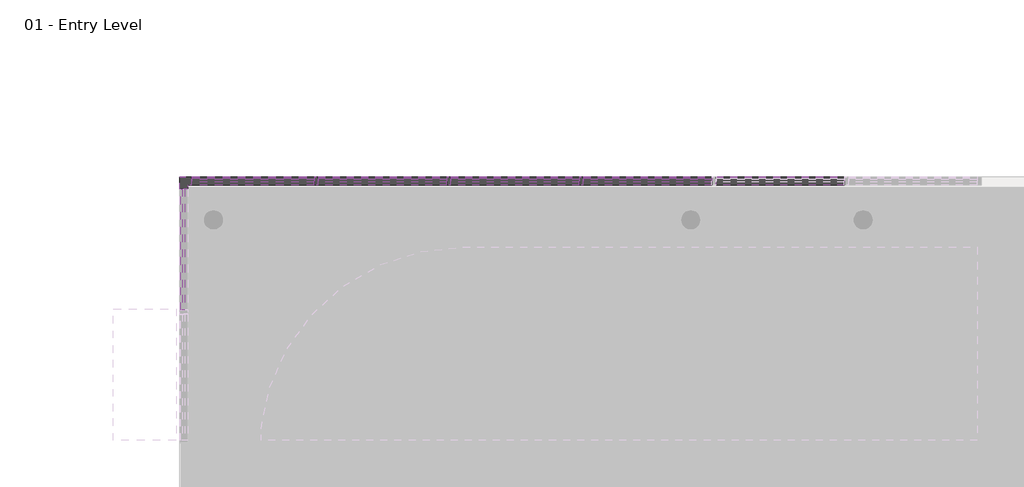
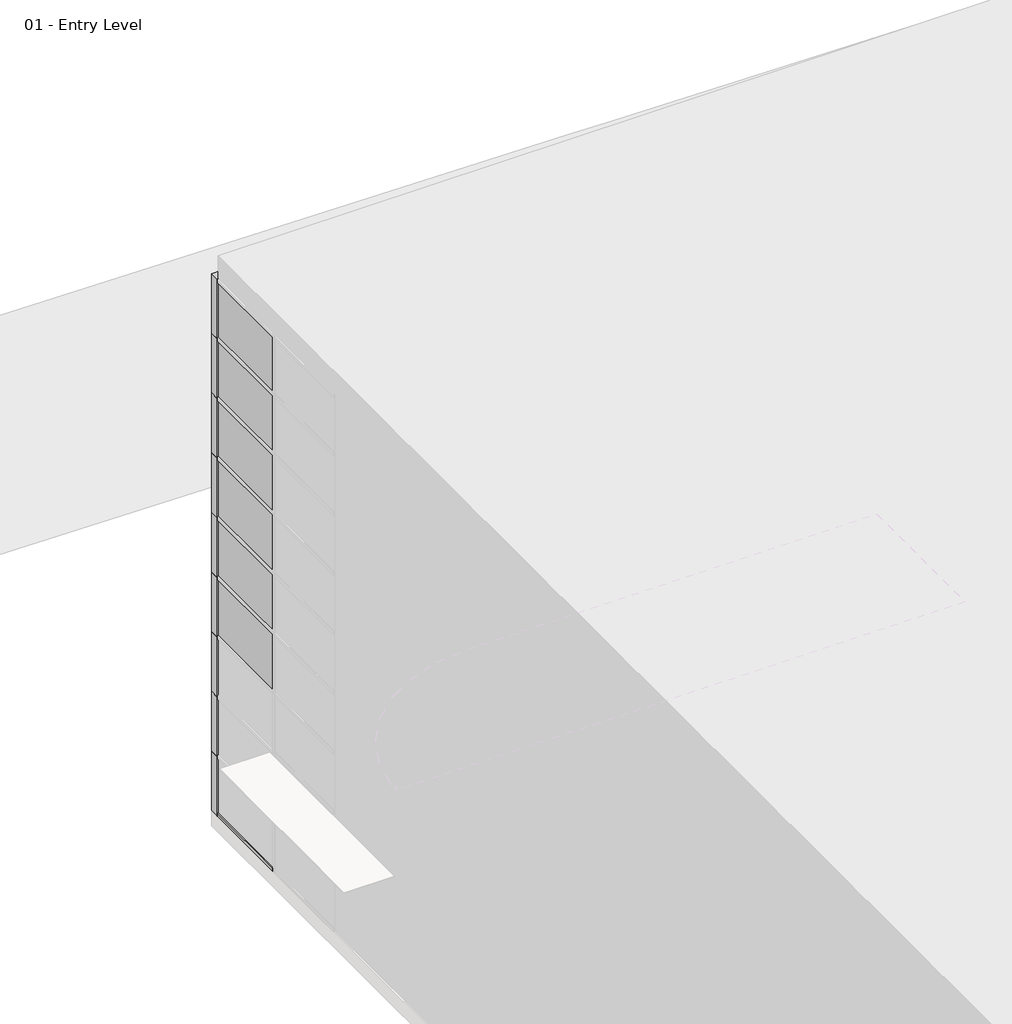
# One storey, part 28 of 34: 86 members, 42 plates.
"""IFC4 building model written with IfcOpenShell, lengths in millimetres."""

from ifc_helpers import new_model, si_unit, origin, place, context, project, spatial, transform, mapped, element, save
from components import member_6230916f, member_2b49869a, member_391b434c, member_9e90ae50, member_9822c4e5, member_b50b2218, member_bdc0ab2a, system_panel_glazed_1b9d6098, system_panel_glazed_70da479d, system_panel_glazed_01db37db, system_panel_glazed_0a464ab8, system_panel_glazed_acb8865d, system_panel_solid_b376696c, system_panel_solid_77e8b053, system_panel_solid_f3cfc6ec, system_panel_solid_9da24cec, system_panel_solid_7d77b356, system_panel_solid_9c486990

model = new_model("IFC4")

# Units and contexts
model_context = context("Model", 3, world=origin())
ifc_project = project(units=[si_unit("LENGTHUNIT", "METRE", prefix="MILLI")], contexts=[model_context])

# Site, building, storey
site = spatial("IfcSite", under=ifc_project)
building = spatial("IfcBuilding", under=site)
storey = spatial("IfcBuildingStorey", under=building, Name="01 - Entry Level", Elevation=0.0)

# Members
placement = place(None, origin())
member_shape = member_6230916f(model_context)
element("IfcMember", 1, ObjectType="L Corner Mullion : 5\" x 5\" Corner", at=placement, inside=storey, context=model_context, shape_type="MappedRepresentation", body=[
    mapped(member_shape, transform((178.7207476, 53825.7, 10972.8), x_axis=(0.0, 1.0, 0.0), y_axis=(-1.0, 0.0, 0.0), z_axis=(0.0, 0.0, 1.0))),
])
element("IfcMember", 2, ObjectType="L Corner Mullion : 5\" x 5\" Corner", at=placement, inside=storey, context=model_context, shape_type="MappedRepresentation", body=[
    mapped(member_shape, transform((178.7207476, 53825.7, 1219.2), x_axis=(0.0, 1.0, 0.0), y_axis=(-1.0, 0.0, 0.0), z_axis=(0.0, 0.0, 1.0))),
])
element("IfcMember", 3, ObjectType="L Corner Mullion : 5\" x 5\" Corner", at=placement, inside=storey, context=model_context, shape_type="MappedRepresentation", body=[
    mapped(member_shape, transform((178.7207476, 53825.7, 8534.4), x_axis=(0.0, 1.0, 0.0), y_axis=(-1.0, 0.0, 0.0), z_axis=(0.0, 0.0, 1.0))),
])
element("IfcMember", 4, ObjectType="L Corner Mullion : 5\" x 5\" Corner", at=placement, inside=storey, context=model_context, shape_type="MappedRepresentation", body=[
    mapped(member_shape, transform((178.7207476, 53825.7, 7315.2), x_axis=(0.0, 1.0, 0.0), y_axis=(-1.0, 0.0, 0.0), z_axis=(0.0, 0.0, 1.0))),
])
element("IfcMember", 5, ObjectType="L Corner Mullion : 5\" x 5\" Corner", at=placement, inside=storey, context=model_context, shape_type="MappedRepresentation", body=[
    mapped(member_shape, transform((178.7207476, 53825.7, 9753.6), x_axis=(0.0, 1.0, 0.0), y_axis=(-1.0, 0.0, 0.0), z_axis=(0.0, 0.0, 1.0))),
])
element("IfcMember", 6, ObjectType="L Corner Mullion : 5\" x 5\" Corner", at=placement, inside=storey, context=model_context, shape_type="MappedRepresentation", body=[
    mapped(member_shape, transform((178.7207476, 53825.7, 6096.0), x_axis=(0.0, 1.0, 0.0), y_axis=(-1.0, 0.0, 0.0), z_axis=(0.0, 0.0, 1.0))),
])
element("IfcMember", 7, ObjectType="L Corner Mullion : 5\" x 5\" Corner", at=placement, inside=storey, context=model_context, shape_type="MappedRepresentation", body=[
    mapped(member_shape, transform((178.7207476, 53825.7, 2438.4), x_axis=(0.0, 1.0, 0.0), y_axis=(-1.0, 0.0, 0.0), z_axis=(0.0, 0.0, 1.0))),
])
element("IfcMember", 8, ObjectType="L Corner Mullion : 5\" x 5\" Corner", at=placement, inside=storey, context=model_context, shape_type="MappedRepresentation", body=[
    mapped(member_shape, transform((178.7207476, 53825.7, 3657.6), x_axis=(0.0, 1.0, 0.0), y_axis=(-1.0, 0.0, 0.0), z_axis=(0.0, 0.0, 1.0))),
])
element("IfcMember", 9, ObjectType="L Corner Mullion : 5\" x 5\" Corner", at=placement, inside=storey, context=model_context, shape_type="MappedRepresentation", body=[
    mapped(member_shape, transform((178.7207476, 53825.7, 4876.8), x_axis=(0.0, 1.0, 0.0), y_axis=(-1.0, 0.0, 0.0), z_axis=(0.0, 0.0, 1.0))),
])
member_2_shape = member_2b49869a(model_context)
element("IfcMember", 10, ObjectType="Rectangular Mullion : 2.5\" x 5\" rectangular", at=placement, inside=storey, context=model_context, shape_type="MappedRepresentation", body=[
    mapped(member_2_shape, transform((6274.7207476, 53825.7, 9753.6), x_axis=(-1.0, 0.0, 0.0), y_axis=(0.0, 1.0, 0.0), z_axis=(0.0, 0.0, -1.0))),
])
element("IfcMember", 11, ObjectType="Rectangular Mullion : 2.5\" x 5\" rectangular", at=placement, inside=storey, context=model_context, shape_type="MappedRepresentation", body=[
    mapped(member_2_shape, transform((4242.7207476, 53825.7, 9753.6), x_axis=(-1.0, 0.0, 0.0), y_axis=(0.0, 1.0, 0.0), z_axis=(0.0, 0.0, -1.0))),
])
element("IfcMember", 12, ObjectType="Rectangular Mullion : 2.5\" x 5\" rectangular", at=placement, inside=storey, context=model_context, shape_type="MappedRepresentation", body=[
    mapped(member_2_shape, transform((2210.7207476, 53825.7, 9753.6), x_axis=(-1.0, 0.0, 0.0), y_axis=(0.0, 1.0, 0.0), z_axis=(0.0, 0.0, -1.0))),
])
member_3_shape = member_391b434c(model_context)
element("IfcMember", 13, ObjectType="Rectangular Mullion : 2.5\" x 5\" rectangular", at=placement, inside=storey, context=model_context, shape_type="MappedRepresentation", body=[
    mapped(member_3_shape, transform((8338.4707476, 53825.7, 10972.8), x_axis=(0.0, 0.0, 1.0), y_axis=(0.0, 1.0, 0.0), z_axis=(-1.0, 0.0, 0.0))),
])
element("IfcMember", 14, ObjectType="Rectangular Mullion : 2.5\" x 5\" rectangular", at=placement, inside=storey, context=model_context, shape_type="MappedRepresentation", body=[
    mapped(member_3_shape, transform((6306.4707476, 53825.7, 10972.8), x_axis=(0.0, 0.0, 1.0), y_axis=(0.0, 1.0, 0.0), z_axis=(-1.0, 0.0, 0.0))),
])
element("IfcMember", 15, ObjectType="Rectangular Mullion : 2.5\" x 5\" rectangular", at=placement, inside=storey, context=model_context, shape_type="MappedRepresentation", body=[
    mapped(member_3_shape, transform((4274.4707476, 53825.7, 10972.8), x_axis=(0.0, 0.0, 1.0), y_axis=(0.0, 1.0, 0.0), z_axis=(-1.0, 0.0, 0.0))),
])
element("IfcMember", 16, ObjectType="Rectangular Mullion : 2.5\" x 5\" rectangular", at=placement, inside=storey, context=model_context, shape_type="MappedRepresentation", body=[
    mapped(member_3_shape, transform((2242.4707476, 53825.7, 10972.8), x_axis=(0.0, 0.0, 1.0), y_axis=(0.0, 1.0, 0.0), z_axis=(-1.0, 0.0, 0.0))),
])
element("IfcMember", 17, ObjectType="Rectangular Mullion : 2.5\" x 5\" rectangular", at=placement, inside=storey, context=model_context, shape_type="MappedRepresentation", body=[
    mapped(member_3_shape, transform((8274.9707476, 53825.7, 0.0), x_axis=(0.0, 0.0, -1.0), y_axis=(0.0, 1.0, 0.0), z_axis=(1.0, 0.0, 0.0))),
])
element("IfcMember", 18, ObjectType="Rectangular Mullion : 2.5\" x 5\" rectangular", at=placement, inside=storey, context=model_context, shape_type="MappedRepresentation", body=[
    mapped(member_3_shape, transform((6242.9707476, 53825.7, 0.0), x_axis=(0.0, 0.0, -1.0), y_axis=(0.0, 1.0, 0.0), z_axis=(1.0, 0.0, 0.0))),
])
element("IfcMember", 19, ObjectType="Rectangular Mullion : 2.5\" x 5\" rectangular", at=placement, inside=storey, context=model_context, shape_type="MappedRepresentation", body=[
    mapped(member_3_shape, transform((4210.9707476, 53825.7, 0.0), x_axis=(0.0, 0.0, -1.0), y_axis=(0.0, 1.0, 0.0), z_axis=(1.0, 0.0, 0.0))),
])
member_4_shape = member_9e90ae50(model_context)
element("IfcMember", 20, ObjectType="Rectangular Mullion : 2.5\" x 5\" rectangular", at=placement, inside=storey, context=model_context, shape_type="MappedRepresentation", body=[
    mapped(member_4_shape, transform((8338.4707476, 53825.7, 1219.2), x_axis=(0.0, 0.0, 1.0), y_axis=(0.0, 1.0, 0.0), z_axis=(-1.0, 0.0, 0.0))),
])
element("IfcMember", 21, ObjectType="Rectangular Mullion : 2.5\" x 5\" rectangular", at=placement, inside=storey, context=model_context, shape_type="MappedRepresentation", body=[
    mapped(member_4_shape, transform((6306.4707476, 53825.7, 1219.2), x_axis=(0.0, 0.0, 1.0), y_axis=(0.0, 1.0, 0.0), z_axis=(-1.0, 0.0, 0.0))),
])
element("IfcMember", 22, ObjectType="Rectangular Mullion : 2.5\" x 5\" rectangular", at=placement, inside=storey, context=model_context, shape_type="MappedRepresentation", body=[
    mapped(member_4_shape, transform((4274.4707476, 53825.7, 1219.2), x_axis=(0.0, 0.0, 1.0), y_axis=(0.0, 1.0, 0.0), z_axis=(-1.0, 0.0, 0.0))),
])
element("IfcMember", 23, ObjectType="Rectangular Mullion : 2.5\" x 5\" rectangular", at=placement, inside=storey, context=model_context, shape_type="MappedRepresentation", body=[
    mapped(member_4_shape, transform((2242.4707476, 53825.7, 1219.2), x_axis=(0.0, 0.0, 1.0), y_axis=(0.0, 1.0, 0.0), z_axis=(-1.0, 0.0, 0.0))),
])
element("IfcMember", 24, ObjectType="Rectangular Mullion : 2.5\" x 5\" rectangular", at=placement, inside=storey, context=model_context, shape_type="MappedRepresentation", body=[
    mapped(member_4_shape, transform((8338.4707476, 53825.7, 2438.4), x_axis=(0.0, 0.0, 1.0), y_axis=(0.0, 1.0, 0.0), z_axis=(-1.0, 0.0, 0.0))),
])
element("IfcMember", 25, ObjectType="Rectangular Mullion : 2.5\" x 5\" rectangular", at=placement, inside=storey, context=model_context, shape_type="MappedRepresentation", body=[
    mapped(member_4_shape, transform((6306.4707476, 53825.7, 2438.4), x_axis=(0.0, 0.0, 1.0), y_axis=(0.0, 1.0, 0.0), z_axis=(-1.0, 0.0, 0.0))),
])
element("IfcMember", 26, ObjectType="Rectangular Mullion : 2.5\" x 5\" rectangular", at=placement, inside=storey, context=model_context, shape_type="MappedRepresentation", body=[
    mapped(member_4_shape, transform((4274.4707476, 53825.7, 2438.4), x_axis=(0.0, 0.0, 1.0), y_axis=(0.0, 1.0, 0.0), z_axis=(-1.0, 0.0, 0.0))),
])
element("IfcMember", 27, ObjectType="Rectangular Mullion : 2.5\" x 5\" rectangular", at=placement, inside=storey, context=model_context, shape_type="MappedRepresentation", body=[
    mapped(member_4_shape, transform((2242.4707476, 53825.7, 2438.4), x_axis=(0.0, 0.0, 1.0), y_axis=(0.0, 1.0, 0.0), z_axis=(-1.0, 0.0, 0.0))),
])
element("IfcMember", 28, ObjectType="Rectangular Mullion : 2.5\" x 5\" rectangular", at=placement, inside=storey, context=model_context, shape_type="MappedRepresentation", body=[
    mapped(member_4_shape, transform((8338.4707476, 53825.7, 3657.6), x_axis=(0.0, 0.0, 1.0), y_axis=(0.0, 1.0, 0.0), z_axis=(-1.0, 0.0, 0.0))),
])
element("IfcMember", 29, ObjectType="Rectangular Mullion : 2.5\" x 5\" rectangular", at=placement, inside=storey, context=model_context, shape_type="MappedRepresentation", body=[
    mapped(member_4_shape, transform((6306.4707476, 53825.7, 3657.6), x_axis=(0.0, 0.0, 1.0), y_axis=(0.0, 1.0, 0.0), z_axis=(-1.0, 0.0, 0.0))),
])
element("IfcMember", 30, ObjectType="Rectangular Mullion : 2.5\" x 5\" rectangular", at=placement, inside=storey, context=model_context, shape_type="MappedRepresentation", body=[
    mapped(member_4_shape, transform((4274.4707476, 53825.7, 3657.6), x_axis=(0.0, 0.0, 1.0), y_axis=(0.0, 1.0, 0.0), z_axis=(-1.0, 0.0, 0.0))),
])
element("IfcMember", 31, ObjectType="Rectangular Mullion : 2.5\" x 5\" rectangular", at=placement, inside=storey, context=model_context, shape_type="MappedRepresentation", body=[
    mapped(member_4_shape, transform((2242.4707476, 53825.7, 3657.6), x_axis=(0.0, 0.0, 1.0), y_axis=(0.0, 1.0, 0.0), z_axis=(-1.0, 0.0, 0.0))),
])
element("IfcMember", 32, ObjectType="Rectangular Mullion : 2.5\" x 5\" rectangular", at=placement, inside=storey, context=model_context, shape_type="MappedRepresentation", body=[
    mapped(member_4_shape, transform((8338.4707476, 53825.7, 4876.8), x_axis=(0.0, 0.0, 1.0), y_axis=(0.0, 1.0, 0.0), z_axis=(-1.0, 0.0, 0.0))),
])
element("IfcMember", 33, ObjectType="Rectangular Mullion : 2.5\" x 5\" rectangular", at=placement, inside=storey, context=model_context, shape_type="MappedRepresentation", body=[
    mapped(member_4_shape, transform((6306.4707476, 53825.7, 4876.8), x_axis=(0.0, 0.0, 1.0), y_axis=(0.0, 1.0, 0.0), z_axis=(-1.0, 0.0, 0.0))),
])
element("IfcMember", 34, ObjectType="Rectangular Mullion : 2.5\" x 5\" rectangular", at=placement, inside=storey, context=model_context, shape_type="MappedRepresentation", body=[
    mapped(member_4_shape, transform((4274.4707476, 53825.7, 4876.8), x_axis=(0.0, 0.0, 1.0), y_axis=(0.0, 1.0, 0.0), z_axis=(-1.0, 0.0, 0.0))),
])
element("IfcMember", 35, ObjectType="Rectangular Mullion : 2.5\" x 5\" rectangular", at=placement, inside=storey, context=model_context, shape_type="MappedRepresentation", body=[
    mapped(member_4_shape, transform((2242.4707476, 53825.7, 4876.8), x_axis=(0.0, 0.0, 1.0), y_axis=(0.0, 1.0, 0.0), z_axis=(-1.0, 0.0, 0.0))),
])
element("IfcMember", 36, ObjectType="Rectangular Mullion : 2.5\" x 5\" rectangular", at=placement, inside=storey, context=model_context, shape_type="MappedRepresentation", body=[
    mapped(member_4_shape, transform((8338.4707476, 53825.7, 6096.0), x_axis=(0.0, 0.0, 1.0), y_axis=(0.0, 1.0, 0.0), z_axis=(-1.0, 0.0, 0.0))),
])
element("IfcMember", 37, ObjectType="Rectangular Mullion : 2.5\" x 5\" rectangular", at=placement, inside=storey, context=model_context, shape_type="MappedRepresentation", body=[
    mapped(member_4_shape, transform((6306.4707476, 53825.7, 6096.0), x_axis=(0.0, 0.0, 1.0), y_axis=(0.0, 1.0, 0.0), z_axis=(-1.0, 0.0, 0.0))),
])
element("IfcMember", 38, ObjectType="Rectangular Mullion : 2.5\" x 5\" rectangular", at=placement, inside=storey, context=model_context, shape_type="MappedRepresentation", body=[
    mapped(member_4_shape, transform((4274.4707476, 53825.7, 6096.0), x_axis=(0.0, 0.0, 1.0), y_axis=(0.0, 1.0, 0.0), z_axis=(-1.0, 0.0, 0.0))),
])
element("IfcMember", 39, ObjectType="Rectangular Mullion : 2.5\" x 5\" rectangular", at=placement, inside=storey, context=model_context, shape_type="MappedRepresentation", body=[
    mapped(member_4_shape, transform((2242.4707476, 53825.7, 6096.0), x_axis=(0.0, 0.0, 1.0), y_axis=(0.0, 1.0, 0.0), z_axis=(-1.0, 0.0, 0.0))),
])
element("IfcMember", 40, ObjectType="Rectangular Mullion : 2.5\" x 5\" rectangular", at=placement, inside=storey, context=model_context, shape_type="MappedRepresentation", body=[
    mapped(member_4_shape, transform((8338.4707476, 53825.7, 7315.2), x_axis=(0.0, 0.0, 1.0), y_axis=(0.0, 1.0, 0.0), z_axis=(-1.0, 0.0, 0.0))),
])
element("IfcMember", 41, ObjectType="Rectangular Mullion : 2.5\" x 5\" rectangular", at=placement, inside=storey, context=model_context, shape_type="MappedRepresentation", body=[
    mapped(member_4_shape, transform((6306.4707476, 53825.7, 7315.2), x_axis=(0.0, 0.0, 1.0), y_axis=(0.0, 1.0, 0.0), z_axis=(-1.0, 0.0, 0.0))),
])
element("IfcMember", 42, ObjectType="Rectangular Mullion : 2.5\" x 5\" rectangular", at=placement, inside=storey, context=model_context, shape_type="MappedRepresentation", body=[
    mapped(member_4_shape, transform((4274.4707476, 53825.7, 7315.2), x_axis=(0.0, 0.0, 1.0), y_axis=(0.0, 1.0, 0.0), z_axis=(-1.0, 0.0, 0.0))),
])
element("IfcMember", 43, ObjectType="Rectangular Mullion : 2.5\" x 5\" rectangular", at=placement, inside=storey, context=model_context, shape_type="MappedRepresentation", body=[
    mapped(member_4_shape, transform((2242.4707476, 53825.7, 7315.2), x_axis=(0.0, 0.0, 1.0), y_axis=(0.0, 1.0, 0.0), z_axis=(-1.0, 0.0, 0.0))),
])
element("IfcMember", 44, ObjectType="Rectangular Mullion : 2.5\" x 5\" rectangular", at=placement, inside=storey, context=model_context, shape_type="MappedRepresentation", body=[
    mapped(member_4_shape, transform((8338.4707476, 53825.7, 8534.4), x_axis=(0.0, 0.0, 1.0), y_axis=(0.0, 1.0, 0.0), z_axis=(-1.0, 0.0, 0.0))),
])
element("IfcMember", 45, ObjectType="Rectangular Mullion : 2.5\" x 5\" rectangular", at=placement, inside=storey, context=model_context, shape_type="MappedRepresentation", body=[
    mapped(member_4_shape, transform((6306.4707476, 53825.7, 8534.4), x_axis=(0.0, 0.0, 1.0), y_axis=(0.0, 1.0, 0.0), z_axis=(-1.0, 0.0, 0.0))),
])
element("IfcMember", 46, ObjectType="Rectangular Mullion : 2.5\" x 5\" rectangular", at=placement, inside=storey, context=model_context, shape_type="MappedRepresentation", body=[
    mapped(member_4_shape, transform((4274.4707476, 53825.7, 8534.4), x_axis=(0.0, 0.0, 1.0), y_axis=(0.0, 1.0, 0.0), z_axis=(-1.0, 0.0, 0.0))),
])
element("IfcMember", 47, ObjectType="Rectangular Mullion : 2.5\" x 5\" rectangular", at=placement, inside=storey, context=model_context, shape_type="MappedRepresentation", body=[
    mapped(member_4_shape, transform((2242.4707476, 53825.7, 8534.4), x_axis=(0.0, 0.0, 1.0), y_axis=(0.0, 1.0, 0.0), z_axis=(-1.0, 0.0, 0.0))),
])
element("IfcMember", 48, ObjectType="Rectangular Mullion : 2.5\" x 5\" rectangular", at=placement, inside=storey, context=model_context, shape_type="MappedRepresentation", body=[
    mapped(member_4_shape, transform((8338.4707476, 53825.7, 9753.6), x_axis=(0.0, 0.0, 1.0), y_axis=(0.0, 1.0, 0.0), z_axis=(-1.0, 0.0, 0.0))),
])
element("IfcMember", 49, ObjectType="Rectangular Mullion : 2.5\" x 5\" rectangular", at=placement, inside=storey, context=model_context, shape_type="MappedRepresentation", body=[
    mapped(member_4_shape, transform((6306.4707476, 53825.7, 9753.6), x_axis=(0.0, 0.0, 1.0), y_axis=(0.0, 1.0, 0.0), z_axis=(-1.0, 0.0, 0.0))),
])
element("IfcMember", 50, ObjectType="Rectangular Mullion : 2.5\" x 5\" rectangular", at=placement, inside=storey, context=model_context, shape_type="MappedRepresentation", body=[
    mapped(member_4_shape, transform((4274.4707476, 53825.7, 9753.6), x_axis=(0.0, 0.0, 1.0), y_axis=(0.0, 1.0, 0.0), z_axis=(-1.0, 0.0, 0.0))),
])
element("IfcMember", 51, ObjectType="Rectangular Mullion : 2.5\" x 5\" rectangular", at=placement, inside=storey, context=model_context, shape_type="MappedRepresentation", body=[
    mapped(member_4_shape, transform((2242.4707476, 53825.7, 9753.6), x_axis=(0.0, 0.0, 1.0), y_axis=(0.0, 1.0, 0.0), z_axis=(-1.0, 0.0, 0.0))),
])
element("IfcMember", 52, ObjectType="Rectangular Mullion : 2.5\" x 5\" rectangular", at=placement, inside=storey, context=model_context, shape_type="MappedRepresentation", body=[
    mapped(member_2_shape, transform((6274.7207476, 53825.7, 0.0), x_axis=(-1.0, 0.0, 0.0), y_axis=(0.0, 1.0, 0.0), z_axis=(0.0, 0.0, -1.0))),
])
element("IfcMember", 53, ObjectType="Rectangular Mullion : 2.5\" x 5\" rectangular", at=placement, inside=storey, context=model_context, shape_type="MappedRepresentation", body=[
    mapped(member_2_shape, transform((4242.7207476, 53825.7, 0.0), x_axis=(-1.0, 0.0, 0.0), y_axis=(0.0, 1.0, 0.0), z_axis=(0.0, 0.0, -1.0))),
])
element("IfcMember", 54, ObjectType="Rectangular Mullion : 2.5\" x 5\" rectangular", at=placement, inside=storey, context=model_context, shape_type="MappedRepresentation", body=[
    mapped(member_2_shape, transform((2210.7207476, 53825.7, 0.0), x_axis=(-1.0, 0.0, 0.0), y_axis=(0.0, 1.0, 0.0), z_axis=(0.0, 0.0, -1.0))),
])
element("IfcMember", 55, ObjectType="Rectangular Mullion : 2.5\" x 5\" rectangular", at=placement, inside=storey, context=model_context, shape_type="MappedRepresentation", body=[
    mapped(member_2_shape, transform((6274.7207476, 53825.7, 1219.2), x_axis=(-1.0, 0.0, 0.0), y_axis=(0.0, 1.0, 0.0), z_axis=(0.0, 0.0, -1.0))),
])
element("IfcMember", 56, ObjectType="Rectangular Mullion : 2.5\" x 5\" rectangular", at=placement, inside=storey, context=model_context, shape_type="MappedRepresentation", body=[
    mapped(member_2_shape, transform((4242.7207476, 53825.7, 1219.2), x_axis=(-1.0, 0.0, 0.0), y_axis=(0.0, 1.0, 0.0), z_axis=(0.0, 0.0, -1.0))),
])
element("IfcMember", 57, ObjectType="Rectangular Mullion : 2.5\" x 5\" rectangular", at=placement, inside=storey, context=model_context, shape_type="MappedRepresentation", body=[
    mapped(member_2_shape, transform((6274.7207476, 53825.7, 2438.4), x_axis=(-1.0, 0.0, 0.0), y_axis=(0.0, 1.0, 0.0), z_axis=(0.0, 0.0, -1.0))),
])
element("IfcMember", 58, ObjectType="Rectangular Mullion : 2.5\" x 5\" rectangular", at=placement, inside=storey, context=model_context, shape_type="MappedRepresentation", body=[
    mapped(member_2_shape, transform((4242.7207476, 53825.7, 2438.4), x_axis=(-1.0, 0.0, 0.0), y_axis=(0.0, 1.0, 0.0), z_axis=(0.0, 0.0, -1.0))),
])
element("IfcMember", 59, ObjectType="Rectangular Mullion : 2.5\" x 5\" rectangular", at=placement, inside=storey, context=model_context, shape_type="MappedRepresentation", body=[
    mapped(member_2_shape, transform((6274.7207476, 53825.7, 3657.6), x_axis=(-1.0, 0.0, 0.0), y_axis=(0.0, 1.0, 0.0), z_axis=(0.0, 0.0, -1.0))),
])
element("IfcMember", 60, ObjectType="Rectangular Mullion : 2.5\" x 5\" rectangular", at=placement, inside=storey, context=model_context, shape_type="MappedRepresentation", body=[
    mapped(member_2_shape, transform((4242.7207476, 53825.7, 3657.6), x_axis=(-1.0, 0.0, 0.0), y_axis=(0.0, 1.0, 0.0), z_axis=(0.0, 0.0, -1.0))),
])
element("IfcMember", 61, ObjectType="Rectangular Mullion : 2.5\" x 5\" rectangular", at=placement, inside=storey, context=model_context, shape_type="MappedRepresentation", body=[
    mapped(member_2_shape, transform((6274.7207476, 53825.7, 4876.8), x_axis=(-1.0, 0.0, 0.0), y_axis=(0.0, 1.0, 0.0), z_axis=(0.0, 0.0, -1.0))),
])
element("IfcMember", 62, ObjectType="Rectangular Mullion : 2.5\" x 5\" rectangular", at=placement, inside=storey, context=model_context, shape_type="MappedRepresentation", body=[
    mapped(member_2_shape, transform((4242.7207476, 53825.7, 4876.8), x_axis=(-1.0, 0.0, 0.0), y_axis=(0.0, 1.0, 0.0), z_axis=(0.0, 0.0, -1.0))),
])
element("IfcMember", 63, ObjectType="Rectangular Mullion : 2.5\" x 5\" rectangular", at=placement, inside=storey, context=model_context, shape_type="MappedRepresentation", body=[
    mapped(member_2_shape, transform((6274.7207476, 53825.7, 6096.0), x_axis=(-1.0, 0.0, 0.0), y_axis=(0.0, 1.0, 0.0), z_axis=(0.0, 0.0, -1.0))),
])
element("IfcMember", 64, ObjectType="Rectangular Mullion : 2.5\" x 5\" rectangular", at=placement, inside=storey, context=model_context, shape_type="MappedRepresentation", body=[
    mapped(member_2_shape, transform((4242.7207476, 53825.7, 6096.0), x_axis=(-1.0, 0.0, 0.0), y_axis=(0.0, 1.0, 0.0), z_axis=(0.0, 0.0, -1.0))),
])
element("IfcMember", 65, ObjectType="Rectangular Mullion : 2.5\" x 5\" rectangular", at=placement, inside=storey, context=model_context, shape_type="MappedRepresentation", body=[
    mapped(member_2_shape, transform((6274.7207476, 53825.7, 7315.2), x_axis=(-1.0, 0.0, 0.0), y_axis=(0.0, 1.0, 0.0), z_axis=(0.0, 0.0, -1.0))),
])
element("IfcMember", 66, ObjectType="Rectangular Mullion : 2.5\" x 5\" rectangular", at=placement, inside=storey, context=model_context, shape_type="MappedRepresentation", body=[
    mapped(member_2_shape, transform((4242.7207476, 53825.7, 7315.2), x_axis=(-1.0, 0.0, 0.0), y_axis=(0.0, 1.0, 0.0), z_axis=(0.0, 0.0, -1.0))),
])
element("IfcMember", 67, ObjectType="Rectangular Mullion : 2.5\" x 5\" rectangular", at=placement, inside=storey, context=model_context, shape_type="MappedRepresentation", body=[
    mapped(member_2_shape, transform((6274.7207476, 53825.7, 8534.4), x_axis=(-1.0, 0.0, 0.0), y_axis=(0.0, 1.0, 0.0), z_axis=(0.0, 0.0, -1.0))),
])
element("IfcMember", 68, ObjectType="Rectangular Mullion : 2.5\" x 5\" rectangular", at=placement, inside=storey, context=model_context, shape_type="MappedRepresentation", body=[
    mapped(member_2_shape, transform((4242.7207476, 53825.7, 8534.4), x_axis=(-1.0, 0.0, 0.0), y_axis=(0.0, 1.0, 0.0), z_axis=(0.0, 0.0, -1.0))),
])
element("IfcMember", 69, ObjectType="Rectangular Mullion : 2.5\" x 5\" rectangular", at=placement, inside=storey, context=model_context, shape_type="MappedRepresentation", body=[
    mapped(member_2_shape, transform((2210.7207476, 53825.7, 1219.2), x_axis=(-1.0, 0.0, 0.0), y_axis=(0.0, 1.0, 0.0), z_axis=(0.0, 0.0, -1.0))),
])
element("IfcMember", 70, ObjectType="Rectangular Mullion : 2.5\" x 5\" rectangular", at=placement, inside=storey, context=model_context, shape_type="MappedRepresentation", body=[
    mapped(member_2_shape, transform((2210.7207476, 53825.7, 2438.4), x_axis=(-1.0, 0.0, 0.0), y_axis=(0.0, 1.0, 0.0), z_axis=(0.0, 0.0, -1.0))),
])
element("IfcMember", 71, ObjectType="Rectangular Mullion : 2.5\" x 5\" rectangular", at=placement, inside=storey, context=model_context, shape_type="MappedRepresentation", body=[
    mapped(member_2_shape, transform((2210.7207476, 53825.7, 3657.6), x_axis=(-1.0, 0.0, 0.0), y_axis=(0.0, 1.0, 0.0), z_axis=(0.0, 0.0, -1.0))),
])
element("IfcMember", 72, ObjectType="Rectangular Mullion : 2.5\" x 5\" rectangular", at=placement, inside=storey, context=model_context, shape_type="MappedRepresentation", body=[
    mapped(member_2_shape, transform((2210.7207476, 53825.7, 4876.8), x_axis=(-1.0, 0.0, 0.0), y_axis=(0.0, 1.0, 0.0), z_axis=(0.0, 0.0, -1.0))),
])
element("IfcMember", 73, ObjectType="Rectangular Mullion : 2.5\" x 5\" rectangular", at=placement, inside=storey, context=model_context, shape_type="MappedRepresentation", body=[
    mapped(member_2_shape, transform((2210.7207476, 53825.7, 6096.0), x_axis=(-1.0, 0.0, 0.0), y_axis=(0.0, 1.0, 0.0), z_axis=(0.0, 0.0, -1.0))),
])
element("IfcMember", 74, ObjectType="Rectangular Mullion : 2.5\" x 5\" rectangular", at=placement, inside=storey, context=model_context, shape_type="MappedRepresentation", body=[
    mapped(member_2_shape, transform((2210.7207476, 53825.7, 7315.2), x_axis=(-1.0, 0.0, 0.0), y_axis=(0.0, 1.0, 0.0), z_axis=(0.0, 0.0, -1.0))),
])
element("IfcMember", 75, ObjectType="Rectangular Mullion : 2.5\" x 5\" rectangular", at=placement, inside=storey, context=model_context, shape_type="MappedRepresentation", body=[
    mapped(member_2_shape, transform((2210.7207476, 53825.7, 8534.4), x_axis=(-1.0, 0.0, 0.0), y_axis=(0.0, 1.0, 0.0), z_axis=(0.0, 0.0, -1.0))),
])
member_5_shape = member_9822c4e5(model_context)
element("IfcMember", 76, ObjectType="Rectangular Mullion : 2.5\" x 5\" rectangular", at=placement, inside=storey, context=model_context, shape_type="MappedRepresentation", body=[
    mapped(member_5_shape, transform((305.7207476, 53825.7, 10972.8), x_axis=(0.0, 0.0, 1.0), y_axis=(0.0, 1.0, 0.0), z_axis=(-1.0, 0.0, 0.0))),
])
element("IfcMember", 77, ObjectType="Rectangular Mullion : 2.5\" x 5\" rectangular", at=placement, inside=storey, context=model_context, shape_type="MappedRepresentation", body=[
    mapped(member_5_shape, transform((2178.9707476, 53825.7, 0.0), x_axis=(0.0, 0.0, -1.0), y_axis=(0.0, 1.0, 0.0), z_axis=(1.0, 0.0, 0.0))),
])
member_6_shape = member_b50b2218(model_context)
element("IfcMember", 78, ObjectType="Rectangular Mullion : 2.5\" x 5\" rectangular", at=placement, inside=storey, context=model_context, shape_type="MappedRepresentation", body=[
    mapped(member_6_shape, transform((305.7207476, 53825.7, 1219.2), x_axis=(0.0, 0.0, 1.0), y_axis=(0.0, 1.0, 0.0), z_axis=(-1.0, 0.0, 0.0))),
])
element("IfcMember", 79, ObjectType="Rectangular Mullion : 2.5\" x 5\" rectangular", at=placement, inside=storey, context=model_context, shape_type="MappedRepresentation", body=[
    mapped(member_6_shape, transform((305.7207476, 53825.7, 2438.4), x_axis=(0.0, 0.0, 1.0), y_axis=(0.0, 1.0, 0.0), z_axis=(-1.0, 0.0, 0.0))),
])
element("IfcMember", 80, ObjectType="Rectangular Mullion : 2.5\" x 5\" rectangular", at=placement, inside=storey, context=model_context, shape_type="MappedRepresentation", body=[
    mapped(member_6_shape, transform((305.7207476, 53825.7, 3657.6), x_axis=(0.0, 0.0, 1.0), y_axis=(0.0, 1.0, 0.0), z_axis=(-1.0, 0.0, 0.0))),
])
element("IfcMember", 81, ObjectType="Rectangular Mullion : 2.5\" x 5\" rectangular", at=placement, inside=storey, context=model_context, shape_type="MappedRepresentation", body=[
    mapped(member_6_shape, transform((305.7207476, 53825.7, 4876.8), x_axis=(0.0, 0.0, 1.0), y_axis=(0.0, 1.0, 0.0), z_axis=(-1.0, 0.0, 0.0))),
])
element("IfcMember", 82, ObjectType="Rectangular Mullion : 2.5\" x 5\" rectangular", at=placement, inside=storey, context=model_context, shape_type="MappedRepresentation", body=[
    mapped(member_6_shape, transform((305.7207476, 53825.7, 6096.0), x_axis=(0.0, 0.0, 1.0), y_axis=(0.0, 1.0, 0.0), z_axis=(-1.0, 0.0, 0.0))),
])
element("IfcMember", 83, ObjectType="Rectangular Mullion : 2.5\" x 5\" rectangular", at=placement, inside=storey, context=model_context, shape_type="MappedRepresentation", body=[
    mapped(member_6_shape, transform((305.7207476, 53825.7, 7315.2), x_axis=(0.0, 0.0, 1.0), y_axis=(0.0, 1.0, 0.0), z_axis=(-1.0, 0.0, 0.0))),
])
element("IfcMember", 84, ObjectType="Rectangular Mullion : 2.5\" x 5\" rectangular", at=placement, inside=storey, context=model_context, shape_type="MappedRepresentation", body=[
    mapped(member_6_shape, transform((305.7207476, 53825.7, 8534.4), x_axis=(0.0, 0.0, 1.0), y_axis=(0.0, 1.0, 0.0), z_axis=(-1.0, 0.0, 0.0))),
])
element("IfcMember", 85, ObjectType="Rectangular Mullion : 2.5\" x 5\" rectangular", at=placement, inside=storey, context=model_context, shape_type="MappedRepresentation", body=[
    mapped(member_6_shape, transform((305.7207476, 53825.7, 9753.6), x_axis=(0.0, 0.0, 1.0), y_axis=(0.0, 1.0, 0.0), z_axis=(-1.0, 0.0, 0.0))),
])
member_7_shape = member_bdc0ab2a(model_context)
element("IfcMember", 86, ObjectType="Rectangular Mullion : 2.5\" x 5\" rectangular", at=placement, inside=storey, context=model_context, shape_type="MappedRepresentation", body=[
    mapped(member_7_shape, transform((178.7207476, 53698.7, 0.0), x_axis=(0.0, 0.0, -1.0), y_axis=(-1.0, 0.0, 0.0), z_axis=(0.0, 1.0, 0.0))),
])

# Plates
system_panel_glazed_shape = system_panel_glazed_1b9d6098(model_context)
element("IfcPlate", 87, ObjectType="System Panel : Glazed", at=placement, inside=storey, context=model_context, shape_type="MappedRepresentation", body=[
    mapped(system_panel_glazed_shape, transform((7290.7207476, 53825.7, 63.5), x_axis=(-1.0, 0.0, 0.0), y_axis=(0.0, -1.0, 0.0), z_axis=(0.0, 0.0, 1.0))),
])
element("IfcPlate", 88, ObjectType="System Panel : Glazed", at=placement, inside=storey, context=model_context, shape_type="MappedRepresentation", body=[
    mapped(system_panel_glazed_shape, transform((5258.7207476, 53825.7, 63.5), x_axis=(-1.0, 0.0, 0.0), y_axis=(0.0, -1.0, 0.0), z_axis=(0.0, 0.0, 1.0))),
])
element("IfcPlate", 89, ObjectType="System Panel : Glazed", at=placement, inside=storey, context=model_context, shape_type="MappedRepresentation", body=[
    mapped(system_panel_glazed_shape, transform((3226.7207476, 53825.7, 63.5), x_axis=(-1.0, 0.0, 0.0), y_axis=(0.0, -1.0, 0.0), z_axis=(0.0, 0.0, 1.0))),
])
system_panel_glazed_2_shape = system_panel_glazed_70da479d(model_context)
element("IfcPlate", 90, ObjectType="System Panel : Glazed", at=placement, inside=storey, context=model_context, shape_type="MappedRepresentation", body=[
    mapped(system_panel_glazed_2_shape, transform((7290.7207476, 53825.7, 1250.95), x_axis=(-1.0, 0.0, 0.0), y_axis=(0.0, -1.0, 0.0), z_axis=(0.0, 0.0, 1.0))),
])
element("IfcPlate", 91, ObjectType="System Panel : Glazed", at=placement, inside=storey, context=model_context, shape_type="MappedRepresentation", body=[
    mapped(system_panel_glazed_2_shape, transform((5258.7207476, 53825.7, 1250.95), x_axis=(-1.0, 0.0, 0.0), y_axis=(0.0, -1.0, 0.0), z_axis=(0.0, 0.0, 1.0))),
])
element("IfcPlate", 92, ObjectType="System Panel : Glazed", at=placement, inside=storey, context=model_context, shape_type="MappedRepresentation", body=[
    mapped(system_panel_glazed_2_shape, transform((3226.7207476, 53825.7, 1250.95), x_axis=(-1.0, 0.0, 0.0), y_axis=(0.0, -1.0, 0.0), z_axis=(0.0, 0.0, 1.0))),
])
element("IfcPlate", 93, ObjectType="System Panel : Glazed", at=placement, inside=storey, context=model_context, shape_type="MappedRepresentation", body=[
    mapped(system_panel_glazed_2_shape, transform((7290.7207476, 53825.7, 3689.35), x_axis=(-1.0, 0.0, 0.0), y_axis=(0.0, -1.0, 0.0), z_axis=(0.0, 0.0, 1.0))),
])
element("IfcPlate", 94, ObjectType="System Panel : Glazed", at=placement, inside=storey, context=model_context, shape_type="MappedRepresentation", body=[
    mapped(system_panel_glazed_2_shape, transform((5258.7207476, 53825.7, 3689.35), x_axis=(-1.0, 0.0, 0.0), y_axis=(0.0, -1.0, 0.0), z_axis=(0.0, 0.0, 1.0))),
])
element("IfcPlate", 95, ObjectType="System Panel : Glazed", at=placement, inside=storey, context=model_context, shape_type="MappedRepresentation", body=[
    mapped(system_panel_glazed_2_shape, transform((3226.7207476, 53825.7, 3689.35), x_axis=(-1.0, 0.0, 0.0), y_axis=(0.0, -1.0, 0.0), z_axis=(0.0, 0.0, 1.0))),
])
element("IfcPlate", 96, ObjectType="System Panel : Glazed", at=placement, inside=storey, context=model_context, shape_type="MappedRepresentation", body=[
    mapped(system_panel_glazed_2_shape, transform((7290.7207476, 53825.7, 4908.55), x_axis=(-1.0, 0.0, 0.0), y_axis=(0.0, -1.0, 0.0), z_axis=(0.0, 0.0, 1.0))),
])
element("IfcPlate", 97, ObjectType="System Panel : Glazed", at=placement, inside=storey, context=model_context, shape_type="MappedRepresentation", body=[
    mapped(system_panel_glazed_2_shape, transform((5258.7207476, 53825.7, 4908.55), x_axis=(-1.0, 0.0, 0.0), y_axis=(0.0, -1.0, 0.0), z_axis=(0.0, 0.0, 1.0))),
])
element("IfcPlate", 98, ObjectType="System Panel : Glazed", at=placement, inside=storey, context=model_context, shape_type="MappedRepresentation", body=[
    mapped(system_panel_glazed_2_shape, transform((3226.7207476, 53825.7, 4908.55), x_axis=(-1.0, 0.0, 0.0), y_axis=(0.0, -1.0, 0.0), z_axis=(0.0, 0.0, 1.0))),
])
element("IfcPlate", 99, ObjectType="System Panel : Glazed", at=placement, inside=storey, context=model_context, shape_type="MappedRepresentation", body=[
    mapped(system_panel_glazed_2_shape, transform((7290.7207476, 53825.7, 7346.95), x_axis=(-1.0, 0.0, 0.0), y_axis=(0.0, -1.0, 0.0), z_axis=(0.0, 0.0, 1.0))),
])
element("IfcPlate", 100, ObjectType="System Panel : Glazed", at=placement, inside=storey, context=model_context, shape_type="MappedRepresentation", body=[
    mapped(system_panel_glazed_2_shape, transform((5258.7207476, 53825.7, 7346.95), x_axis=(-1.0, 0.0, 0.0), y_axis=(0.0, -1.0, 0.0), z_axis=(0.0, 0.0, 1.0))),
])
element("IfcPlate", 101, ObjectType="System Panel : Glazed", at=placement, inside=storey, context=model_context, shape_type="MappedRepresentation", body=[
    mapped(system_panel_glazed_2_shape, transform((3226.7207476, 53825.7, 7346.95), x_axis=(-1.0, 0.0, 0.0), y_axis=(0.0, -1.0, 0.0), z_axis=(0.0, 0.0, 1.0))),
])
element("IfcPlate", 102, ObjectType="System Panel : Glazed", at=placement, inside=storey, context=model_context, shape_type="MappedRepresentation", body=[
    mapped(system_panel_glazed_2_shape, transform((7290.7207476, 53825.7, 8566.15), x_axis=(-1.0, 0.0, 0.0), y_axis=(0.0, -1.0, 0.0), z_axis=(0.0, 0.0, 1.0))),
])
element("IfcPlate", 103, ObjectType="System Panel : Glazed", at=placement, inside=storey, context=model_context, shape_type="MappedRepresentation", body=[
    mapped(system_panel_glazed_2_shape, transform((5258.7207476, 53825.7, 8566.15), x_axis=(-1.0, 0.0, 0.0), y_axis=(0.0, -1.0, 0.0), z_axis=(0.0, 0.0, 1.0))),
])
element("IfcPlate", 104, ObjectType="System Panel : Glazed", at=placement, inside=storey, context=model_context, shape_type="MappedRepresentation", body=[
    mapped(system_panel_glazed_2_shape, transform((3226.7207476, 53825.7, 8566.15), x_axis=(-1.0, 0.0, 0.0), y_axis=(0.0, -1.0, 0.0), z_axis=(0.0, 0.0, 1.0))),
])
system_panel_glazed_3_shape = system_panel_glazed_01db37db(model_context)
element("IfcPlate", 105, ObjectType="System Panel : Glazed", at=placement, inside=storey, context=model_context, shape_type="MappedRepresentation", body=[
    mapped(system_panel_glazed_3_shape, transform((1242.3457476, 53825.7, 63.5), x_axis=(-1.0, 0.0, 0.0), y_axis=(0.0, -1.0, 0.0), z_axis=(0.0, 0.0, 1.0))),
])
system_panel_glazed_4_shape = system_panel_glazed_0a464ab8(model_context)
element("IfcPlate", 106, ObjectType="System Panel : Glazed", at=placement, inside=storey, context=model_context, shape_type="MappedRepresentation", body=[
    mapped(system_panel_glazed_4_shape, transform((1242.3457476, 53825.7, 1250.95), x_axis=(-1.0, 0.0, 0.0), y_axis=(0.0, -1.0, 0.0), z_axis=(0.0, 0.0, 1.0))),
])
element("IfcPlate", 107, ObjectType="System Panel : Glazed", at=placement, inside=storey, context=model_context, shape_type="MappedRepresentation", body=[
    mapped(system_panel_glazed_4_shape, transform((1242.3457476, 53825.7, 3689.35), x_axis=(-1.0, 0.0, 0.0), y_axis=(0.0, -1.0, 0.0), z_axis=(0.0, 0.0, 1.0))),
])
element("IfcPlate", 108, ObjectType="System Panel : Glazed", at=placement, inside=storey, context=model_context, shape_type="MappedRepresentation", body=[
    mapped(system_panel_glazed_4_shape, transform((1242.3457476, 53825.7, 4908.55), x_axis=(-1.0, 0.0, 0.0), y_axis=(0.0, -1.0, 0.0), z_axis=(0.0, 0.0, 1.0))),
])
element("IfcPlate", 109, ObjectType="System Panel : Glazed", at=placement, inside=storey, context=model_context, shape_type="MappedRepresentation", body=[
    mapped(system_panel_glazed_4_shape, transform((1242.3457476, 53825.7, 7346.95), x_axis=(-1.0, 0.0, 0.0), y_axis=(0.0, -1.0, 0.0), z_axis=(0.0, 0.0, 1.0))),
])
element("IfcPlate", 110, ObjectType="System Panel : Glazed", at=placement, inside=storey, context=model_context, shape_type="MappedRepresentation", body=[
    mapped(system_panel_glazed_4_shape, transform((1242.3457476, 53825.7, 8566.15), x_axis=(-1.0, 0.0, 0.0), y_axis=(0.0, -1.0, 0.0), z_axis=(0.0, 0.0, 1.0))),
])
system_panel_glazed_5_shape = system_panel_glazed_acb8865d(model_context)
element("IfcPlate", 111, ObjectType="System Panel : Glazed", at=placement, inside=storey, context=model_context, shape_type="MappedRepresentation", body=[
    mapped(system_panel_glazed_5_shape, transform((178.7207476, 52771.6, 3689.35), x_axis=(0.0, -1.0, 0.0), y_axis=(1.0, 0.0, 0.0), z_axis=(0.0, 0.0, 1.0))),
])
element("IfcPlate", 112, ObjectType="System Panel : Glazed", at=placement, inside=storey, context=model_context, shape_type="MappedRepresentation", body=[
    mapped(system_panel_glazed_5_shape, transform((178.7207476, 52771.6, 4908.55), x_axis=(0.0, -1.0, 0.0), y_axis=(1.0, 0.0, 0.0), z_axis=(0.0, 0.0, 1.0))),
])
element("IfcPlate", 113, ObjectType="System Panel : Glazed", at=placement, inside=storey, context=model_context, shape_type="MappedRepresentation", body=[
    mapped(system_panel_glazed_5_shape, transform((178.7207476, 52771.6, 7346.95), x_axis=(0.0, -1.0, 0.0), y_axis=(1.0, 0.0, 0.0), z_axis=(0.0, 0.0, 1.0))),
])
element("IfcPlate", 114, ObjectType="System Panel : Glazed", at=placement, inside=storey, context=model_context, shape_type="MappedRepresentation", body=[
    mapped(system_panel_glazed_5_shape, transform((178.7207476, 52771.6, 8566.15), x_axis=(0.0, -1.0, 0.0), y_axis=(1.0, 0.0, 0.0), z_axis=(0.0, 0.0, 1.0))),
])
system_panel_solid_shape = system_panel_solid_b376696c(model_context)
element("IfcPlate", 115, ObjectType="System Panel : Solid", at=placement, inside=storey, context=model_context, shape_type="MappedRepresentation", body=[
    mapped(system_panel_solid_shape, transform((7290.7207476, 53825.7, 9785.35), x_axis=(-1.0, 0.0, 0.0), y_axis=(0.0, -1.0, 0.0), z_axis=(0.0, 0.0, 1.0))),
])
element("IfcPlate", 116, ObjectType="System Panel : Solid", at=placement, inside=storey, context=model_context, shape_type="MappedRepresentation", body=[
    mapped(system_panel_solid_shape, transform((5258.7207476, 53825.7, 9785.35), x_axis=(-1.0, 0.0, 0.0), y_axis=(0.0, -1.0, 0.0), z_axis=(0.0, 0.0, 1.0))),
])
element("IfcPlate", 117, ObjectType="System Panel : Solid", at=placement, inside=storey, context=model_context, shape_type="MappedRepresentation", body=[
    mapped(system_panel_solid_shape, transform((3226.7207476, 53825.7, 9785.35), x_axis=(-1.0, 0.0, 0.0), y_axis=(0.0, -1.0, 0.0), z_axis=(0.0, 0.0, 1.0))),
])
system_panel_solid_2_shape = system_panel_solid_77e8b053(model_context)
element("IfcPlate", 118, ObjectType="System Panel : Solid", at=placement, inside=storey, context=model_context, shape_type="MappedRepresentation", body=[
    mapped(system_panel_solid_2_shape, transform((7290.7207476, 53825.7, 2470.15), x_axis=(-1.0, 0.0, 0.0), y_axis=(0.0, -1.0, 0.0), z_axis=(0.0, 0.0, 1.0))),
])
element("IfcPlate", 119, ObjectType="System Panel : Solid", at=placement, inside=storey, context=model_context, shape_type="MappedRepresentation", body=[
    mapped(system_panel_solid_2_shape, transform((5258.7207476, 53825.7, 2470.15), x_axis=(-1.0, 0.0, 0.0), y_axis=(0.0, -1.0, 0.0), z_axis=(0.0, 0.0, 1.0))),
])
element("IfcPlate", 120, ObjectType="System Panel : Solid", at=placement, inside=storey, context=model_context, shape_type="MappedRepresentation", body=[
    mapped(system_panel_solid_2_shape, transform((3226.7207476, 53825.7, 2470.15), x_axis=(-1.0, 0.0, 0.0), y_axis=(0.0, -1.0, 0.0), z_axis=(0.0, 0.0, 1.0))),
])
element("IfcPlate", 121, ObjectType="System Panel : Solid", at=placement, inside=storey, context=model_context, shape_type="MappedRepresentation", body=[
    mapped(system_panel_solid_2_shape, transform((7290.7207476, 53825.7, 6127.75), x_axis=(-1.0, 0.0, 0.0), y_axis=(0.0, -1.0, 0.0), z_axis=(0.0, 0.0, 1.0))),
])
element("IfcPlate", 122, ObjectType="System Panel : Solid", at=placement, inside=storey, context=model_context, shape_type="MappedRepresentation", body=[
    mapped(system_panel_solid_2_shape, transform((5258.7207476, 53825.7, 6127.75), x_axis=(-1.0, 0.0, 0.0), y_axis=(0.0, -1.0, 0.0), z_axis=(0.0, 0.0, 1.0))),
])
element("IfcPlate", 123, ObjectType="System Panel : Solid", at=placement, inside=storey, context=model_context, shape_type="MappedRepresentation", body=[
    mapped(system_panel_solid_2_shape, transform((3226.7207476, 53825.7, 6127.75), x_axis=(-1.0, 0.0, 0.0), y_axis=(0.0, -1.0, 0.0), z_axis=(0.0, 0.0, 1.0))),
])
system_panel_solid_3_shape = system_panel_solid_f3cfc6ec(model_context)
element("IfcPlate", 124, ObjectType="System Panel : Solid", at=placement, inside=storey, context=model_context, shape_type="MappedRepresentation", body=[
    mapped(system_panel_solid_3_shape, transform((178.7207476, 52771.6, 6127.75), x_axis=(0.0, -1.0, 0.0), y_axis=(1.0, 0.0, 0.0), z_axis=(0.0, 0.0, 1.0))),
])
system_panel_solid_4_shape = system_panel_solid_9da24cec(model_context)
element("IfcPlate", 125, ObjectType="System Panel : Solid", at=placement, inside=storey, context=model_context, shape_type="MappedRepresentation", body=[
    mapped(system_panel_solid_4_shape, transform((178.7207476, 52771.6, 9785.35), x_axis=(0.0, -1.0, 0.0), y_axis=(1.0, 0.0, 0.0), z_axis=(0.0, 0.0, 1.0))),
])
system_panel_solid_5_shape = system_panel_solid_7d77b356(model_context)
element("IfcPlate", 126, ObjectType="System Panel : Solid", at=placement, inside=storey, context=model_context, shape_type="MappedRepresentation", body=[
    mapped(system_panel_solid_5_shape, transform((1242.3457476, 53825.7, 2470.15), x_axis=(-1.0, 0.0, 0.0), y_axis=(0.0, -1.0, 0.0), z_axis=(0.0, 0.0, 1.0))),
])
element("IfcPlate", 127, ObjectType="System Panel : Solid", at=placement, inside=storey, context=model_context, shape_type="MappedRepresentation", body=[
    mapped(system_panel_solid_5_shape, transform((1242.3457476, 53825.7, 6127.75), x_axis=(-1.0, 0.0, 0.0), y_axis=(0.0, -1.0, 0.0), z_axis=(0.0, 0.0, 1.0))),
])
system_panel_solid_6_shape = system_panel_solid_9c486990(model_context)
element("IfcPlate", 128, ObjectType="System Panel : Solid", at=placement, inside=storey, context=model_context, shape_type="MappedRepresentation", body=[
    mapped(system_panel_solid_6_shape, transform((1242.3457476, 53825.7, 9785.35), x_axis=(-1.0, 0.0, 0.0), y_axis=(0.0, -1.0, 0.0), z_axis=(0.0, 0.0, 1.0))),
])

save(model, "model.ifc")
